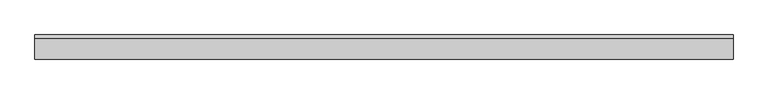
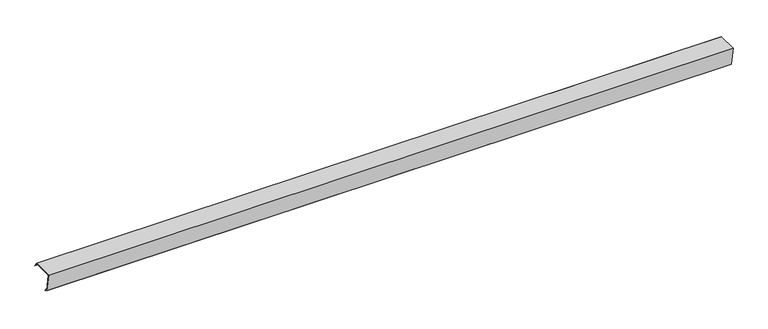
"""IFC4 building model written with IfcOpenShell, lengths in millimetres: proxy geometry, ATELIERS 3S_PARISIENNE 1000_NON-VENTILATED SINGLE ROOF RIDGE : ATELIERS 3S_PARISIENNE 1000_NON-VENTILATED SINGLE ROOF RIDGE."""

from ifc_helpers import new_model, si_unit, frame, origin, place, context, project, spatial, polyline, outline, extrude, source, transform, mapped, element, save


def generic_models_521a51fa(model_context):
    return source(origin(), model_context, "Body", "SweptSolid", [
        extrude(outline(polyline([(160.9940784, 0.3163489), (186.805018, -36.5454931), (185.985866, -37.1190695), (160.4735114, -0.6836511), (-7.814168, -0.6836511), (18.7207055, -151.1703969), (33.4928218, -148.5656742), (36.2711927, -164.3225983), (35.2863849, -164.4962465), (32.6816622, -149.7241302), (17.909546, -152.3288528), (-9.0059216, 0.3163489), (160.9940784, 0.3163489)])), frame((0.0, 0.0, 0.0), z_axis=(1.0, 0.0, 0.0), x_axis=(0.0, 1.0, 0.0)), (0.0, 0.0, 1.0), 5661.0),
    ])


if __name__ == "__main__":
    model = new_model("IFC4")
    model_context = context("Model", 3, world=origin())
    ifc_project = project(units=[si_unit("LENGTHUNIT", "METRE", prefix="MILLI")], contexts=[model_context])
    site = spatial("IfcSite", under=ifc_project)
    building = spatial("IfcBuilding", under=site)
    placement = place(None, origin())
    generic_models_shape = generic_models_521a51fa(model_context)
    element("IfcBuildingElementProxy", 1, Name="ATELIERS 3S_PARISIENNE 1000_NON-VENTILATED SINGLE ROOF RIDGE : ATELIERS 3S_PARISIENNE 1000_NON-VENTILATED SINGLE ROOF RIDGE", ObjectType="ATELIERS 3S_PARISIENNE 1000_NON-VENTILATED SINGLE ROOF RIDGE : ATELIERS 3S_PARISIENNE 1000_NON-VENTILATED SINGLE ROOF RIDGE", at=placement, inside=building, context=model_context, shape_type="MappedRepresentation", body=[
        mapped(generic_models_shape, transform((0.0, 0.0, 0.0), x_axis=(1.0, 0.0, 0.0), y_axis=(0.0, 1.0, 0.0), z_axis=(0.0, 0.0, 1.0))),
    ])
    save(model, "model.ifc")
